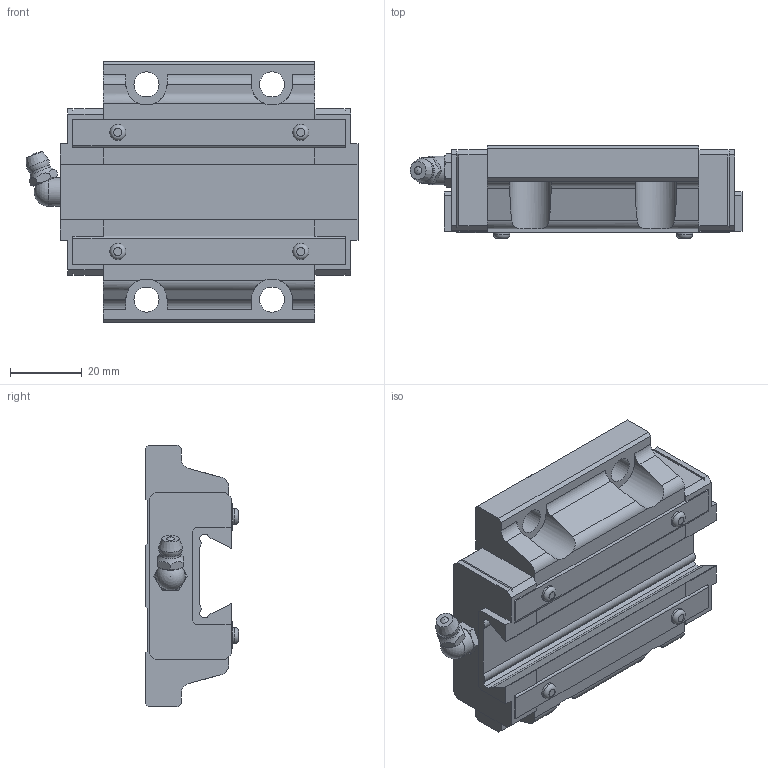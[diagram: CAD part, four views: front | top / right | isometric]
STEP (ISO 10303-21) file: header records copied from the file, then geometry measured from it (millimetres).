
FILE_DESCRIPTION(/* description */ ('STEP AP214'),/* implementation_level */ '2;1');
FILE_NAME(/* name */ 'SR25TB1SS(GK) BLOCK(B-M6F)',/* time_stamp */ '2023-06-01T08:29:14+02:00',/* author */ ('License CC BY-ND 4.0'),/* organization */ ('CADENAS'),/* preprocessor_version */ 'ST-DEVELOPER v19.3',/* originating_system */ 'PARTsolutions',/* authorisation */ ' ');
FILE_SCHEMA (('AUTOMOTIVE_DESIGN {1 0 10303 214 3 1 1}'));
Length unit declared in the file: millimetre
Products named in the file (3): SR25TB1SS(GK) BLOCK(B-M6F); SR-B-M6F_grease_nipple_joint; SR25TBYSSB-M6F S
Assembly tree (2 placements, depth 2):
  SR25TB1SS(GK) BLOCK(B-M6F)
    SR-B-M6F_grease_nipple_joint
    SR25TBYSSB-M6F S
Bounding box: 92.6 x 26 x 73 mm (x, y, z)
Volume: 94032.1 mm3; surface area: 20783.4 mm2
Topology: 2 solids, 2 shells, 196 faces, 530 edges, 343 vertices
Faces by surface type: plane 138, cylinder 36, cone 13, torus 6, sphere 3
Full cylindrical faces by diameter (mm): 4.5 x4, 4.917 x2, 6 x1, 7 x4, 8 x1
Entity records: 6063 total; most frequent: CARTESIAN_POINT 1178, ORIENTED_EDGE 988, DIRECTION 966, EDGE_CURVE 494, LINE 356, VECTOR 356, VERTEX_POINT 337, AXIS2_PLACEMENT_3D 305
